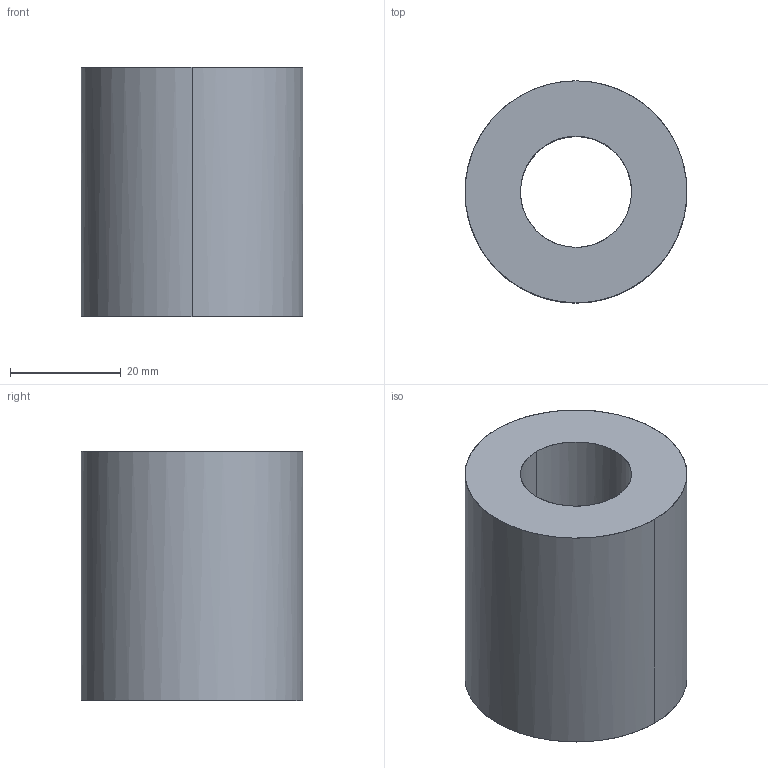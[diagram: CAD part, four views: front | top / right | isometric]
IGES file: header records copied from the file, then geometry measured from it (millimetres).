
Global section: file name: E:\UnigraphicsGraphicData\MISUMI_PRESS-PARTS\IGES\3d_swz40-45_00781_r00.igs; native system: NX V5.0; preprocessor: UGS NX IGES V5.0; author: MISUMI; date: 20110105.163304; units: millimetre
Bounding box: 40 x 40 x 45 mm (x, y, z)
Surface area: 10365.7 mm2 (no closed solid volume)
Topology: 0 solids, 0 shells, 6 faces, 64 edges, 64 vertices
Faces by surface type: bspline 6
